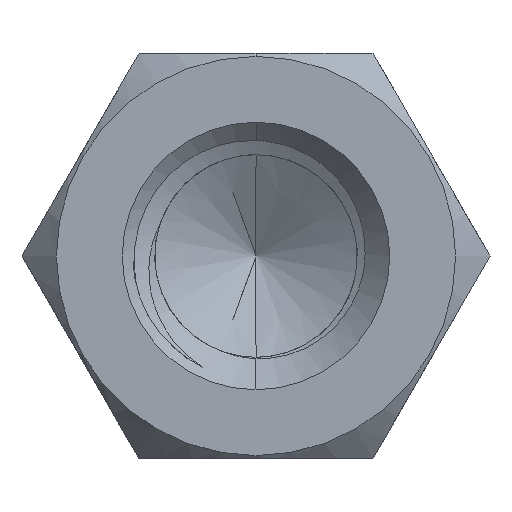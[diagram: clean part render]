
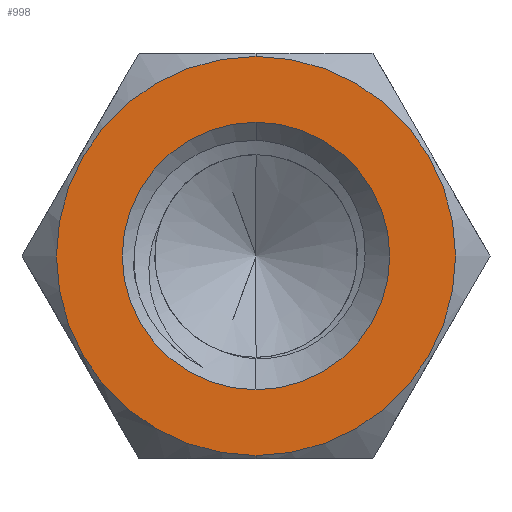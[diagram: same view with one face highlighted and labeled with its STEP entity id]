
A CAD part, front view. The second image highlights one B-rep face of the part: STEP entity #998.
In plain terms, the highlighted planar face has unit normal (0, -1, 0).
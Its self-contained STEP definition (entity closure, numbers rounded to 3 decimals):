
#32 = VERTEX_POINT ( 'NONE', #1407 ) ;
#74 = DIRECTION ( 'NONE',  ( 0., 1., 0. ) ) ;
#164 = DIRECTION ( 'NONE',  ( 0., 0., -1. ) ) ;
#222 = DIRECTION ( 'NONE',  ( 0., 0., 1. ) ) ;
#339 = CIRCLE ( 'NONE', #1457, 4.924 ) ;
#408 = CIRCLE ( 'NONE', #747, 4.924 ) ;
#433 = ORIENTED_EDGE ( 'NONE', *, *, #2371, .T. ) ;
#484 = CARTESIAN_POINT ( 'NONE',  ( 0., 0., 0. ) ) ;
#531 = CARTESIAN_POINT ( 'NONE',  ( 0., 0., 0. ) ) ;
#549 = ORIENTED_EDGE ( 'NONE', *, *, #915, .T. ) ;
#550 = CARTESIAN_POINT ( 'NONE',  ( 0., 0., -3.3 ) ) ;
#632 = CIRCLE ( 'NONE', #2066, 3.3 ) ;
#704 = DIRECTION ( 'NONE',  ( 0., -1., 0. ) ) ;
#747 = AXIS2_PLACEMENT_3D ( 'NONE', #484, #704, #1294 ) ;
#817 = AXIS2_PLACEMENT_3D ( 'NONE', #1409, #1588, #222 ) ;
#852 = FACE_BOUND ( 'NONE', #1703, .T. ) ;
#898 = CARTESIAN_POINT ( 'NONE',  ( 0., 0., 0. ) ) ;
#915 = EDGE_CURVE ( 'NONE', #1081, #1043, #632, .T. ) ;
#983 = EDGE_CURVE ( 'NONE', #1786, #32, #408, .T. ) ;
#998 = ADVANCED_FACE ( 'NONE', ( #852, #2078 ), #2237, .F. ) ;
#1043 = VERTEX_POINT ( 'NONE', #1329 ) ;
#1081 = VERTEX_POINT ( 'NONE', #550 ) ;
#1221 = EDGE_LOOP ( 'NONE', ( #1999, #433 ) ) ;
#1233 = ORIENTED_EDGE ( 'NONE', *, *, #1353, .T. ) ;
#1294 = DIRECTION ( 'NONE',  ( 0., 0., -1. ) ) ;
#1329 = CARTESIAN_POINT ( 'NONE',  ( 0., 0., 3.3 ) ) ;
#1353 = EDGE_CURVE ( 'NONE', #1043, #1081, #2517, .T. ) ;
#1407 = CARTESIAN_POINT ( 'NONE',  ( 0., 0., -4.924 ) ) ;
#1409 = CARTESIAN_POINT ( 'NONE',  ( 0., 0., 0. ) ) ;
#1457 = AXIS2_PLACEMENT_3D ( 'NONE', #531, #2537, #164 ) ;
#1588 = DIRECTION ( 'NONE',  ( 0., 1., 0. ) ) ;
#1632 = DIRECTION ( 'NONE',  ( 0., 1., 0. ) ) ;
#1703 = EDGE_LOOP ( 'NONE', ( #549, #1233 ) ) ;
#1786 = VERTEX_POINT ( 'NONE', #1875 ) ;
#1827 = CARTESIAN_POINT ( 'NONE',  ( 0., 0., 0. ) ) ;
#1875 = CARTESIAN_POINT ( 'NONE',  ( 0., 0., 4.924 ) ) ;
#1999 = ORIENTED_EDGE ( 'NONE', *, *, #983, .T. ) ;
#2066 = AXIS2_PLACEMENT_3D ( 'NONE', #898, #74, #2481 ) ;
#2078 = FACE_OUTER_BOUND ( 'NONE', #1221, .T. ) ;
#2186 = AXIS2_PLACEMENT_3D ( 'NONE', #1827, #1632, #2432 ) ;
#2237 = PLANE ( 'NONE',  #2186 ) ;
#2371 = EDGE_CURVE ( 'NONE', #32, #1786, #339, .T. ) ;
#2432 = DIRECTION ( 'NONE',  ( 0., 0., 1. ) ) ;
#2481 = DIRECTION ( 'NONE',  ( 0., 0., 1. ) ) ;
#2517 = CIRCLE ( 'NONE', #817, 3.3 ) ;
#2537 = DIRECTION ( 'NONE',  ( 0., -1., 0. ) ) ;
